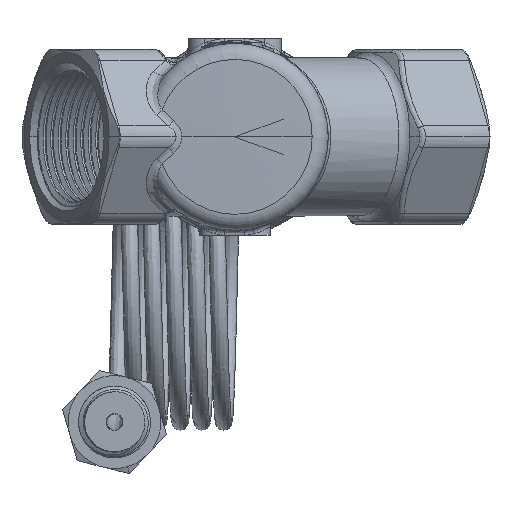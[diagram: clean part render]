
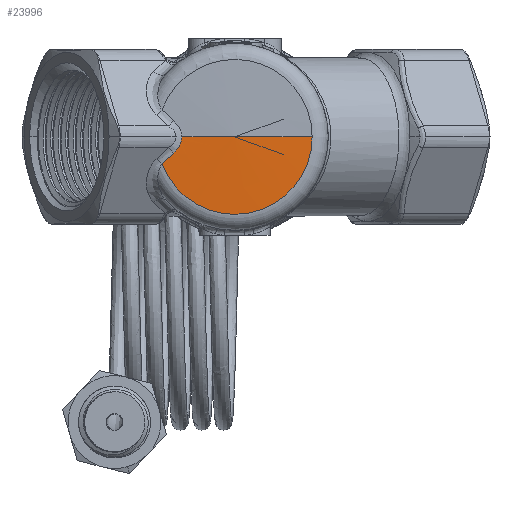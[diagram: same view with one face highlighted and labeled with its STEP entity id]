
A CAD part, front view. The second image highlights one B-rep face of the part: STEP entity #23996.
In plain terms, the highlighted conical face has half-angle 88.5 degrees and reference radius 14.178 mm.
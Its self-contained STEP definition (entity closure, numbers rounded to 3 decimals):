
#326 = AXIS2_PLACEMENT_3D ( 'NONE', #22432, #34042, #10252 ) ;
#1137 = DIRECTION ( 'NONE',  ( 1., 0., 0. ) ) ;
#4183 = DIRECTION ( 'NONE',  ( -1., 0.026, 0. ) ) ;
#4285 = CARTESIAN_POINT ( 'NONE',  ( -15.804, -56.929, -4.904 ) ) ;
#4610 = ORIENTED_EDGE ( 'NONE', *, *, #17148, .T. ) ;
#4758 = VERTEX_POINT ( 'NONE', #31044 ) ;
#5017 = EDGE_CURVE ( 'NONE', #31403, #4758, #38281, .T. ) ;
#8699 = DIRECTION ( 'NONE',  ( 1., 0.026, 0. ) ) ;
#9557 = CARTESIAN_POINT ( 'NONE',  ( -13.287, -57.01, -2.585 ) ) ;
#10252 = DIRECTION ( 'NONE',  ( -1., 0., 0. ) ) ;
#10338 = ORIENTED_EDGE ( 'NONE', *, *, #30204, .F. ) ;
#10659 = CARTESIAN_POINT ( 'NONE',  ( -13.7, -56.996, -2.987 ) ) ;
#11767 = CARTESIAN_POINT ( 'NONE',  ( 11.679, -56.929, 0. ) ) ;
#11799 = CARTESIAN_POINT ( 'NONE',  ( -13.7, -56.996, -2.987 ) ) ;
#13076 = CARTESIAN_POINT ( 'NONE',  ( -13.7, -56.996, -2.987 ) ) ;
#13100 = EDGE_LOOP ( 'NONE', ( #10338, #22673, #4610, #39855, #37692 ) ) ;
#15190 = FACE_OUTER_BOUND ( 'NONE', #13100, .T. ) ;
#15990 = CARTESIAN_POINT ( 'NONE',  ( -15.804, -56.929, -4.904 ) ) ;
#16381 = CARTESIAN_POINT ( 'NONE',  ( -12.759, -57.027, -1.904 ) ) ;
#16945 = VERTEX_POINT ( 'NONE', #43055 ) ;
#17148 = EDGE_CURVE ( 'NONE', #16945, #25056, #20343, .T. ) ;
#17481 = VERTEX_POINT ( 'NONE', #26881 ) ;
#18161 = LINE ( 'NONE', #11767, #33758 ) ;
#19956 = EDGE_CURVE ( 'NONE', #25056, #31403, #25343, .T. ) ;
#20343 = B_SPLINE_CURVE_WITH_KNOTS ( 'NONE', 3,
 ( #39935, #33118, #33559, #26281, #26061, #22759, #39499, #16381, #39724, #9557, #43228, #13076 ),
 .UNSPECIFIED., .F., .F.,
 ( 4, 2, 2, 2, 2, 4 ),
 ( 0.003, 0.004, 0.004, 0.005, 0.006, 0.007 ),
 .UNSPECIFIED. ) ;
#21152 = CARTESIAN_POINT ( 'NONE',  ( -2.5, -56.929, 0. ) ) ;
#22009 = DIRECTION ( 'NONE',  ( 0., 1., 0. ) ) ;
#22432 = CARTESIAN_POINT ( 'NONE',  ( -2.5, -56.929, 0. ) ) ;
#22673 = ORIENTED_EDGE ( 'NONE', *, *, #32655, .T. ) ;
#22759 = CARTESIAN_POINT ( 'NONE',  ( -12.37, -57.04, -1.131 ) ) ;
#23264 = AXIS2_PLACEMENT_3D ( 'NONE', #21152, #22009, #1137 ) ;
#23982 = VECTOR ( 'NONE', #4183, 1000. ) ;
#23996 = ADVANCED_FACE ( 'NONE', ( #15190 ), #42242, .T. ) ;
#25056 = VERTEX_POINT ( 'NONE', #11799 ) ;
#25343 = B_SPLINE_CURVE_WITH_KNOTS ( 'NONE', 3,
 ( #10659, #40611, #34453, #4285 ),
 .UNSPECIFIED., .F., .F.,
 ( 4, 4 ),
 ( 0., 0.003 ),
 .UNSPECIFIED. ) ;
#26061 = CARTESIAN_POINT ( 'NONE',  ( -12.256, -57.044, -0.712 ) ) ;
#26281 = CARTESIAN_POINT ( 'NONE',  ( -12.226, -57.045, -0.569 ) ) ;
#26881 = CARTESIAN_POINT ( 'NONE',  ( -2.5, -57.3, 0. ) ) ;
#30204 = EDGE_CURVE ( 'NONE', #17481, #4758, #18161, .T. ) ;
#31044 = CARTESIAN_POINT ( 'NONE',  ( 11.679, -56.929, 0. ) ) ;
#31403 = VERTEX_POINT ( 'NONE', #15990 ) ;
#32506 = CARTESIAN_POINT ( 'NONE',  ( -16.679, -56.929, 0. ) ) ;
#32655 = EDGE_CURVE ( 'NONE', #17481, #16945, #38092, .T. ) ;
#33118 = CARTESIAN_POINT ( 'NONE',  ( -12.178, -57.047, -0.143 ) ) ;
#33559 = CARTESIAN_POINT ( 'NONE',  ( -12.187, -57.046, -0.285 ) ) ;
#33758 = VECTOR ( 'NONE', #8699, 1000. ) ;
#34042 = DIRECTION ( 'NONE',  ( 0., -1., 0. ) ) ;
#34453 = CARTESIAN_POINT ( 'NONE',  ( -15.103, -56.952, -4.264 ) ) ;
#37692 = ORIENTED_EDGE ( 'NONE', *, *, #5017, .T. ) ;
#38092 = LINE ( 'NONE', #32506, #23982 ) ;
#38281 = CIRCLE ( 'NONE', #326, 14.179 ) ;
#39499 = CARTESIAN_POINT ( 'NONE',  ( -12.481, -57.036, -1.396 ) ) ;
#39724 = CARTESIAN_POINT ( 'NONE',  ( -12.924, -57.021, -2.142 ) ) ;
#39855 = ORIENTED_EDGE ( 'NONE', *, *, #19956, .T. ) ;
#39935 = CARTESIAN_POINT ( 'NONE',  ( -12.178, -57.047, 0. ) ) ;
#40611 = CARTESIAN_POINT ( 'NONE',  ( -14.402, -56.974, -3.625 ) ) ;
#42242 = CONICAL_SURFACE ( 'NONE', #23264, 14.179, 1.545 ) ;
#43055 = CARTESIAN_POINT ( 'NONE',  ( -12.178, -57.047, 0. ) ) ;
#43228 = CARTESIAN_POINT ( 'NONE',  ( -13.486, -57.003, -2.792 ) ) ;
